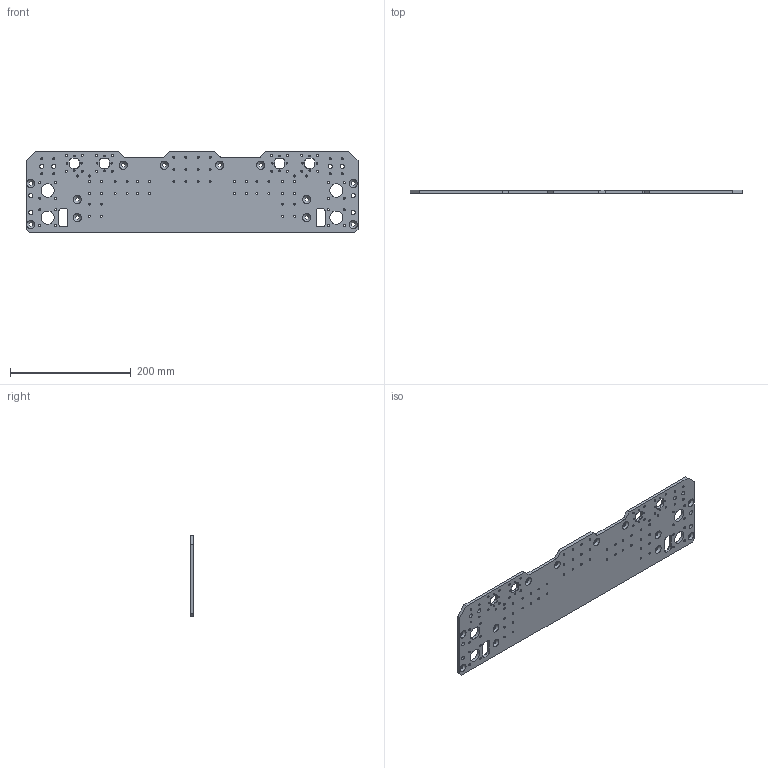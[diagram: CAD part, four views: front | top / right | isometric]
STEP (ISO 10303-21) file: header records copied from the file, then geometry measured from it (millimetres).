
FILE_DESCRIPTION(/* description */ ('x_motor_plate'),/* implementation_level */ '2;1');
FILE_NAME(/* name */ '05_x_motor_plate_x1.step',/* time_stamp */ '2026-10-27T16:17:51+01:00',/* author */ (''),/* organization */ (''),/* preprocessor_version */ 'ST-DEVELOPER v20.2',/* originating_system */ 'Autodesk Translation Framework v15.17.0.0',/* authorisation */ '');
FILE_SCHEMA (('AUTOMOTIVE_DESIGN { 1 0 10303 214 3 1 1 }'));
Length unit declared in the file: millimetre
Products named in the file (1): 2026-10-27-16-17-51-097
Bounding box: 550 x 5 x 135 mm (x, y, z)
Volume: 335704.1 mm3; surface area: 152400.5 mm2
Topology: 1 solids, 1 shells, 208 faces, 618 edges, 412 vertices
Faces by surface type: cylinder 154, plane 42, cone 12
Full cylindrical faces by diameter (mm): 2.459 x16, 3.4 x88, 6.4 x4, 6.6 x12, 6.917 x4, 22 x4
Entity records: 7945 total; most frequent: DIRECTION 1368, CARTESIAN_POINT 1239, ORIENTED_EDGE 1236, EDGE_CURVE 618, AXIS2_PLACEMENT_3D 541, EDGE_LOOP 476, VERTEX_POINT 412, CIRCLE 332
